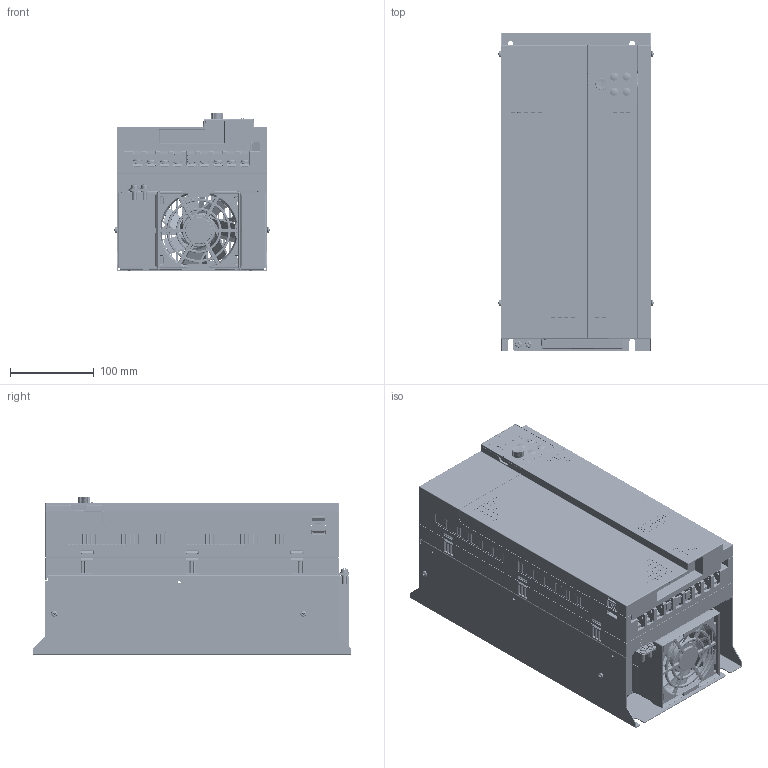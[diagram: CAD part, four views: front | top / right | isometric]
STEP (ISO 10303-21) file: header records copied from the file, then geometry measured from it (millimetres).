
FILE_DESCRIPTION((''),'2;1');
FILE_NAME('AD80-S4-DRIVE_22KW_ASM','2025-06-26T11:32:19',('wendong.luo'),(''),'CREO PARAMETRIC BY PTC INC, 2024374','CREO PARAMETRIC BY PTC INC, 2024374','');
FILE_SCHEMA(('CONFIG_CONTROL_DESIGN','GEOMETRIC_VALIDATION_PROPERTIES_MIM'));
Products named in the file (37): S4-MECHANICAL-PART-22KW; M0104197; M0104198; M0104021; FAN9238; FAN-ASM-9238_ASM; E0100292; E0400085; E0400084; E0400074; E0400035; E0400088; E0400086; E0100292_ASM; E0400030; M0203177; M0100011; M0100015; M0202000; M0202007; M0202003; FASTEN_22KW_ASM; M0104199; M0203053; AD80-S4-PU_22KW_ASM; AD80-LCP-MECHANICAL_PART; E0100294; 0805-LED; E0200191; E0200192; E0400038; E0300012; E0400011; E0100294_ASM; M0203065_00; AD80-KP00_ASM; AD80-S4-DRIVE_22KW_ASM
Assembly tree (59 placements, depth 4):
  AD80-S4-DRIVE_22KW_ASM
    AD80-S4-PU_22KW_ASM
      S4-MECHANICAL-PART-22KW
      M0104197
      M0104198
      FAN-ASM-9238_ASM
        M0104021
        FAN9238
      E0100292_ASM
        E0100292
        E0400085  x3
        E0400084  x2
        E0400074
        E0400035
        E0400088
        E0400086  x3
      E0400030
      M0203177
      M0100011
      M0100015  x2
      FASTEN_22KW_ASM
        M0202000  x5
        M0202007  x2
        M0202003  x4
      M0104199
      M0203053
    AD80-KP00_ASM
      AD80-LCP-MECHANICAL_PART
      E0100294_ASM
        E0100294
        0805-LED  x6
        E0200191
        E0200192
        E0400038  x4
        E0300012
        E0400035
        E0400011
      M0203065_00
Bounding box: 185.03 x 380 x 188.75 mm (x, y, z)
Volume: 1943031.6 mm3; surface area: 1122669.8 mm2
Topology: 73 solids, 141 shells, 18216 faces, 48655 edges, 31286 vertices
Faces by surface type: plane 9362, cylinder 4219, bspline 2143, extrusion 1176, cone 624, torus 453, sphere 239
Entity records: 709499 total; most frequent: CARTESIAN_POINT 207287, ORIENTED_EDGE 83640, DIRECTION 67614, EDGE_CURVE 41982, PRESENTATION_STYLE_ASSIGNMENT 38575, STYLED_ITEM 37752, CURVE_STYLE 37305, VERTEX_POINT 27021
